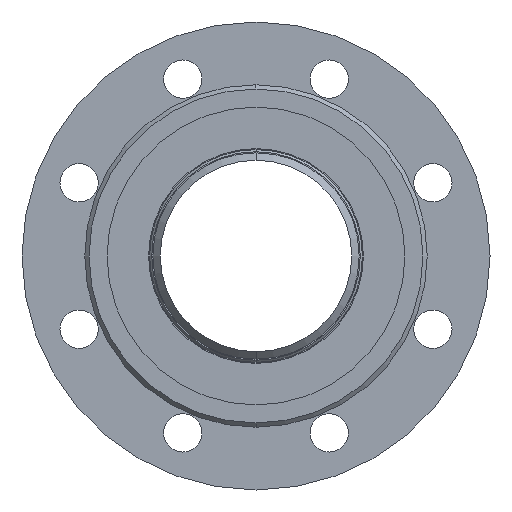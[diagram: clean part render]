
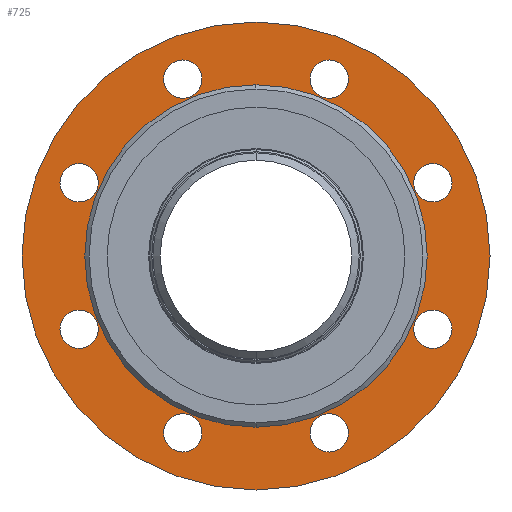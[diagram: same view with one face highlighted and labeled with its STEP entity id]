
A CAD part, left-side view. The second image highlights one B-rep face of the part: STEP entity #725.
In plain terms, the highlighted planar face has unit normal (-1, 0, 0).
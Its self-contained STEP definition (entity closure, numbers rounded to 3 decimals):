
#725=ADVANCED_FACE('',(#1444,#1445,#1446,#1447,#1448,#1449,#1450,#1451,#1452,#1453),#1454,.F.);
#1444=FACE_BOUND('',#2338,.T.);
#1445=FACE_BOUND('',#2339,.T.);
#1446=FACE_BOUND('',#2340,.T.);
#1447=FACE_BOUND('',#2341,.T.);
#1448=FACE_BOUND('',#2342,.T.);
#1449=FACE_BOUND('',#2343,.T.);
#1450=FACE_BOUND('',#2344,.T.);
#1451=FACE_BOUND('',#2345,.T.);
#1452=FACE_BOUND('',#2346,.T.);
#1453=FACE_OUTER_BOUND('',#2347,.T.);
#1454=PLANE('',#2348);
#2338=EDGE_LOOP('',(#3663,#3664));
#2339=EDGE_LOOP('',(#3665,#3666));
#2340=EDGE_LOOP('',(#3667,#3668));
#2341=EDGE_LOOP('',(#3669,#3670));
#2342=EDGE_LOOP('',(#3671,#3672));
#2343=EDGE_LOOP('',(#3673,#3674));
#2344=EDGE_LOOP('',(#3675,#3676));
#2345=EDGE_LOOP('',(#3677,#3678));
#2346=EDGE_LOOP('',(#3679,#3680));
#2347=EDGE_LOOP('',(#3681,#3682));
#2348=AXIS2_PLACEMENT_3D('',#3683,#3684,#3685);
#3663=ORIENTED_EDGE('',*,*,#5248,.T.);
#3664=ORIENTED_EDGE('',*,*,#5068,.T.);
#3665=ORIENTED_EDGE('',*,*,#5249,.T.);
#3666=ORIENTED_EDGE('',*,*,#5250,.T.);
#3667=ORIENTED_EDGE('',*,*,#5251,.T.);
#3668=ORIENTED_EDGE('',*,*,#5252,.T.);
#3669=ORIENTED_EDGE('',*,*,#5253,.T.);
#3670=ORIENTED_EDGE('',*,*,#5121,.T.);
#3671=ORIENTED_EDGE('',*,*,#5176,.T.);
#3672=ORIENTED_EDGE('',*,*,#5184,.T.);
#3673=ORIENTED_EDGE('',*,*,#4820,.T.);
#3674=ORIENTED_EDGE('',*,*,#4972,.T.);
#3675=ORIENTED_EDGE('',*,*,#5254,.T.);
#3676=ORIENTED_EDGE('',*,*,#5040,.T.);
#3677=ORIENTED_EDGE('',*,*,#4815,.T.);
#3678=ORIENTED_EDGE('',*,*,#5133,.T.);
#3679=ORIENTED_EDGE('',*,*,#5138,.T.);
#3680=ORIENTED_EDGE('',*,*,#4836,.T.);
#3681=ORIENTED_EDGE('',*,*,#5086,.F.);
#3682=ORIENTED_EDGE('',*,*,#5255,.F.);
#3683=CARTESIAN_POINT('',(5.0,0.0,0.));
#3684=DIRECTION('',(1.0,0.0,0.));
#3685=DIRECTION('',(0.,0.0,-1.0));
#4815=EDGE_CURVE('',#5639,#5643,#5645,.T.);
#4820=EDGE_CURVE('',#5648,#5652,#5654,.T.);
#4836=EDGE_CURVE('',#5682,#5680,#5683,.T.);
#4972=EDGE_CURVE('',#5652,#5648,#5914,.T.);
#5040=EDGE_CURVE('',#6027,#6025,#6028,.T.);
#5068=EDGE_CURVE('',#6070,#6072,#6074,.T.);
#5086=EDGE_CURVE('',#6098,#6100,#6101,.T.);
#5121=EDGE_CURVE('',#6152,#6150,#6153,.T.);
#5133=EDGE_CURVE('',#5643,#5639,#6170,.T.);
#5138=EDGE_CURVE('',#5680,#5682,#6176,.T.);
#5176=EDGE_CURVE('',#6228,#6230,#6232,.T.);
#5184=EDGE_CURVE('',#6230,#6228,#6240,.T.);
#5248=EDGE_CURVE('',#6072,#6070,#6333,.T.);
#5249=EDGE_CURVE('',#6334,#6335,#6336,.T.);
#5250=EDGE_CURVE('',#6335,#6334,#6337,.T.);
#5251=EDGE_CURVE('',#6338,#6339,#6340,.T.);
#5252=EDGE_CURVE('',#6339,#6338,#6341,.T.);
#5253=EDGE_CURVE('',#6150,#6152,#6342,.T.);
#5254=EDGE_CURVE('',#6025,#6027,#6343,.T.);
#5255=EDGE_CURVE('',#6100,#6098,#6344,.T.);
#5639=VERTEX_POINT('',#6799);
#5643=VERTEX_POINT('',#6804);
#5645=CIRCLE('',#6807,9.0);
#5648=VERTEX_POINT('',#6810);
#5652=VERTEX_POINT('',#6815);
#5654=CIRCLE('',#6818,9.0);
#5680=VERTEX_POINT('',#6850);
#5682=VERTEX_POINT('',#6853);
#5683=CIRCLE('',#6854,9.0);
#5914=CIRCLE('',#7119,9.0);
#6025=VERTEX_POINT('',#7261);
#6027=VERTEX_POINT('',#7264);
#6028=CIRCLE('',#7265,9.0);
#6070=VERTEX_POINT('',#7314);
#6072=VERTEX_POINT('',#7317);
#6074=CIRCLE('',#7320,50.0);
#6098=VERTEX_POINT('',#7348);
#6100=VERTEX_POINT('',#7351);
#6101=CIRCLE('',#7352,110.0);
#6150=VERTEX_POINT('',#7415);
#6152=VERTEX_POINT('',#7418);
#6153=CIRCLE('',#7419,9.0);
#6170=CIRCLE('',#7442,9.0);
#6176=CIRCLE('',#7449,9.0);
#6228=VERTEX_POINT('',#7516);
#6230=VERTEX_POINT('',#7519);
#6232=CIRCLE('',#7522,9.0);
#6240=CIRCLE('',#7531,9.0);
#6333=CIRCLE('',#7650,50.0);
#6334=VERTEX_POINT('',#7651);
#6335=VERTEX_POINT('',#7652);
#6336=CIRCLE('',#7653,9.0);
#6337=CIRCLE('',#7654,9.0);
#6338=VERTEX_POINT('',#7655);
#6339=VERTEX_POINT('',#7656);
#6340=CIRCLE('',#7657,9.0);
#6341=CIRCLE('',#7658,9.0);
#6342=CIRCLE('',#7659,9.0);
#6343=CIRCLE('',#7660,9.0);
#6344=CIRCLE('',#7661,110.0);
#6799=CARTESIAN_POINT('',(5.0,-83.149,-43.442));
#6804=CARTESIAN_POINT('',(5.0,-83.149,-25.442));
#6807=AXIS2_PLACEMENT_3D('',#8148,#8149,#8150);
#6810=CARTESIAN_POINT('',(5.0,83.149,25.442));
#6815=CARTESIAN_POINT('',(5.0,83.149,43.442));
#6818=AXIS2_PLACEMENT_3D('',#8156,#8157,#8158);
#6850=CARTESIAN_POINT('',(5.0,-34.442,-92.149));
#6853=CARTESIAN_POINT('',(5.0,-34.442,-74.149));
#6854=AXIS2_PLACEMENT_3D('',#8178,#8179,#8180);
#7119=AXIS2_PLACEMENT_3D('',#8443,#8444,#8445);
#7261=CARTESIAN_POINT('',(5.0,34.442,74.149));
#7264=CARTESIAN_POINT('',(5.,34.442,92.149));
#7265=AXIS2_PLACEMENT_3D('',#8544,#8545,#8546);
#7314=CARTESIAN_POINT('',(5.0,0.,-50.0));
#7317=CARTESIAN_POINT('',(5.0,0.,50.0));
#7320=AXIS2_PLACEMENT_3D('',#8595,#8596,#8597);
#7348=CARTESIAN_POINT('',(5.,0.0,-110.0));
#7351=CARTESIAN_POINT('',(5.,0.,110.0));
#7352=AXIS2_PLACEMENT_3D('',#8624,#8625,#8626);
#7415=CARTESIAN_POINT('',(5.0,-83.149,25.442));
#7418=CARTESIAN_POINT('',(5.0,-83.149,43.442));
#7419=AXIS2_PLACEMENT_3D('',#8672,#8673,#8674);
#7442=AXIS2_PLACEMENT_3D('',#8687,#8688,#8689);
#7449=AXIS2_PLACEMENT_3D('',#8694,#8695,#8696);
#7516=CARTESIAN_POINT('',(5.0,-34.442,74.149));
#7519=CARTESIAN_POINT('',(5.,-34.442,92.149));
#7522=AXIS2_PLACEMENT_3D('',#8741,#8742,#8743);
#7531=AXIS2_PLACEMENT_3D('',#8751,#8752,#8753);
#7650=AXIS2_PLACEMENT_3D('',#8843,#8844,#8845);
#7651=CARTESIAN_POINT('',(5.0,83.149,-43.442));
#7652=CARTESIAN_POINT('',(5.0,83.149,-25.442));
#7653=AXIS2_PLACEMENT_3D('',#8846,#8847,#8848);
#7654=AXIS2_PLACEMENT_3D('',#8849,#8850,#8851);
#7655=CARTESIAN_POINT('',(5.0,34.442,-92.149));
#7656=CARTESIAN_POINT('',(5.0,34.442,-74.149));
#7657=AXIS2_PLACEMENT_3D('',#8852,#8853,#8854);
#7658=AXIS2_PLACEMENT_3D('',#8855,#8856,#8857);
#7659=AXIS2_PLACEMENT_3D('',#8858,#8859,#8860);
#7660=AXIS2_PLACEMENT_3D('',#8861,#8862,#8863);
#7661=AXIS2_PLACEMENT_3D('',#8864,#8865,#8866);
#8148=CARTESIAN_POINT('',(5.0,-83.149,-34.442));
#8149=DIRECTION('',(1.0,0.0,0.));
#8150=DIRECTION('',(0.,0.0,-1.0));
#8156=CARTESIAN_POINT('',(5.0,83.149,34.442));
#8157=DIRECTION('',(1.0,0.0,0.));
#8158=DIRECTION('',(0.,0.0,-1.0));
#8178=CARTESIAN_POINT('',(5.,-34.442,-83.149));
#8179=DIRECTION('',(1.0,0.0,0.));
#8180=DIRECTION('',(0.,0.0,-1.0));
#8443=CARTESIAN_POINT('',(5.0,83.149,34.442));
#8444=DIRECTION('',(1.0,0.0,0.));
#8445=DIRECTION('',(0.,0.0,-1.0));
#8544=CARTESIAN_POINT('',(5.,34.442,83.149));
#8545=DIRECTION('',(1.0,0.0,0.));
#8546=DIRECTION('',(0.,0.0,-1.0));
#8595=CARTESIAN_POINT('',(5.0,0.0,0.));
#8596=DIRECTION('',(1.0,0.0,0.));
#8597=DIRECTION('',(0.,0.0,-1.0));
#8624=CARTESIAN_POINT('',(5.0,0.0,0.));
#8625=DIRECTION('',(1.0,0.0,0.));
#8626=DIRECTION('',(0.,0.0,-1.0));
#8672=CARTESIAN_POINT('',(5.0,-83.149,34.442));
#8673=DIRECTION('',(1.0,0.0,0.));
#8674=DIRECTION('',(0.,0.0,-1.0));
#8687=CARTESIAN_POINT('',(5.0,-83.149,-34.442));
#8688=DIRECTION('',(1.0,0.0,0.));
#8689=DIRECTION('',(0.,0.0,-1.0));
#8694=CARTESIAN_POINT('',(5.,-34.442,-83.149));
#8695=DIRECTION('',(1.0,0.0,0.));
#8696=DIRECTION('',(0.,0.0,-1.0));
#8741=CARTESIAN_POINT('',(5.,-34.442,83.149));
#8742=DIRECTION('',(1.0,0.0,0.));
#8743=DIRECTION('',(0.,0.0,-1.0));
#8751=CARTESIAN_POINT('',(5.,-34.442,83.149));
#8752=DIRECTION('',(1.0,0.0,0.));
#8753=DIRECTION('',(0.,0.0,-1.0));
#8843=CARTESIAN_POINT('',(5.0,0.0,0.));
#8844=DIRECTION('',(1.0,0.0,0.));
#8845=DIRECTION('',(0.,0.0,-1.0));
#8846=CARTESIAN_POINT('',(5.0,83.149,-34.442));
#8847=DIRECTION('',(1.0,0.0,0.));
#8848=DIRECTION('',(0.,0.0,-1.0));
#8849=CARTESIAN_POINT('',(5.0,83.149,-34.442));
#8850=DIRECTION('',(1.0,0.0,0.));
#8851=DIRECTION('',(0.,0.0,-1.0));
#8852=CARTESIAN_POINT('',(5.,34.442,-83.149));
#8853=DIRECTION('',(1.0,0.0,0.));
#8854=DIRECTION('',(0.,0.0,-1.0));
#8855=CARTESIAN_POINT('',(5.,34.442,-83.149));
#8856=DIRECTION('',(1.0,0.0,0.));
#8857=DIRECTION('',(0.,0.0,-1.0));
#8858=CARTESIAN_POINT('',(5.0,-83.149,34.442));
#8859=DIRECTION('',(1.0,0.0,0.));
#8860=DIRECTION('',(0.,0.0,-1.0));
#8861=CARTESIAN_POINT('',(5.,34.442,83.149));
#8862=DIRECTION('',(1.0,0.0,0.));
#8863=DIRECTION('',(0.,0.0,-1.0));
#8864=CARTESIAN_POINT('',(5.0,0.0,0.));
#8865=DIRECTION('',(1.0,0.0,0.));
#8866=DIRECTION('',(0.,0.0,-1.0));
